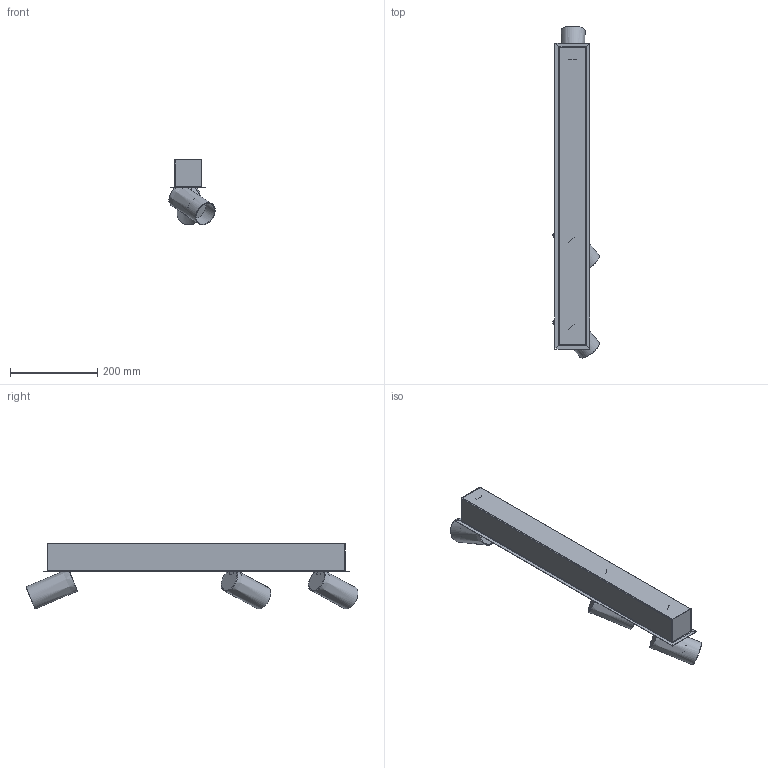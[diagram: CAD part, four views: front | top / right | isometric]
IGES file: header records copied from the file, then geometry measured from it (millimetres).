
Start section: SolidWorks IGES file using analytic representation for surfaces
Global section: file name: X:\PRODUKT\Modele 3D_WWW\_KOLEKCJE WWW\MONO-DEEP\MONO-DEEP-III-10461-10466\MONO-DEEP-III-10461-10466.IGS; native system: SolidWorks 2021; preprocessor: SolidWorks 2021; author: gabriela.tworek; date: 220824.083502; units: millimetre
Bounding box: 105.9 x 759.95 x 150.67 mm (x, y, z)
Surface area: 449629 mm2 (no closed solid volume)
Topology: 0 solids, 0 shells, 175 faces, 950 edges, 938 vertices
Faces by surface type: bspline 131, revolution 44
